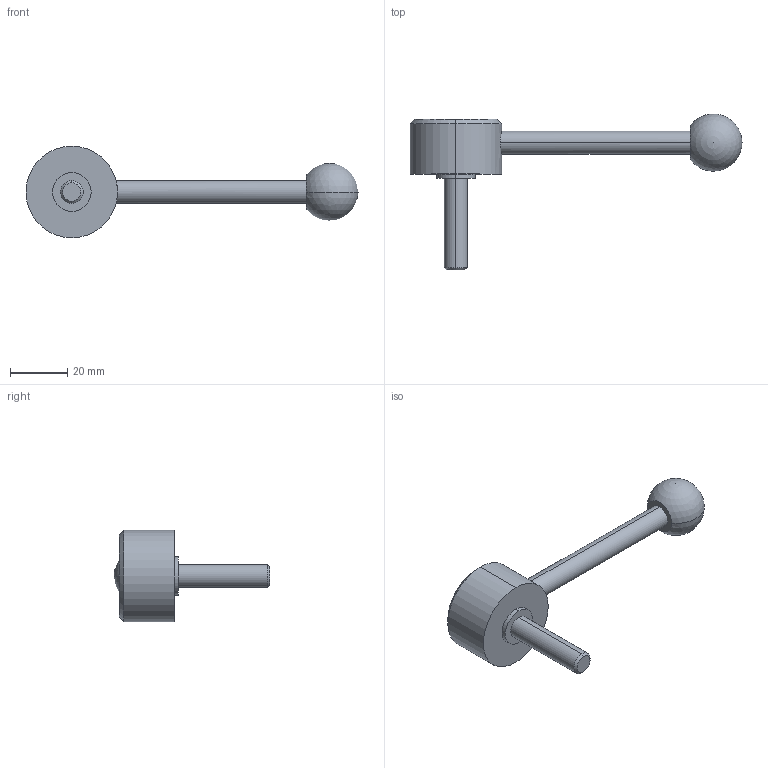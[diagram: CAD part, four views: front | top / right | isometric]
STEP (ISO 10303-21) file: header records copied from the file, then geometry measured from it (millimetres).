
FILE_DESCRIPTION (( 'STEP AP214' ), '1' );
FILE_NAME ('125.5-32-M8-32-D.step', '2020-02-18T11:25:52', ( '' ), ( '' ), 'SwSTEP 2.0', 'SolidWorks 2019', '' );
FILE_SCHEMA (( 'AUTOMOTIVE_DESIGN' ));
Length unit declared in the file: millimetre
Products named in the file (1): 125.5-32-M8-32-D
Bounding box: 116 x 54.47 x 32 mm (x, y, z)
Volume: 24458.7 mm3; surface area: 7101.6 mm2
Topology: 1 solids, 1 shells, 22 faces, 47 edges, 30 vertices
Faces by surface type: cylinder 10, plane 6, cone 4, sphere 2
Entity records: 730 total; most frequent: CARTESIAN_POINT 158, DIRECTION 112, ORIENTED_EDGE 84, AXIS2_PLACEMENT_3D 49, EDGE_CURVE 42, EDGE_LOOP 27, VERTEX_POINT 27, CIRCLE 26
